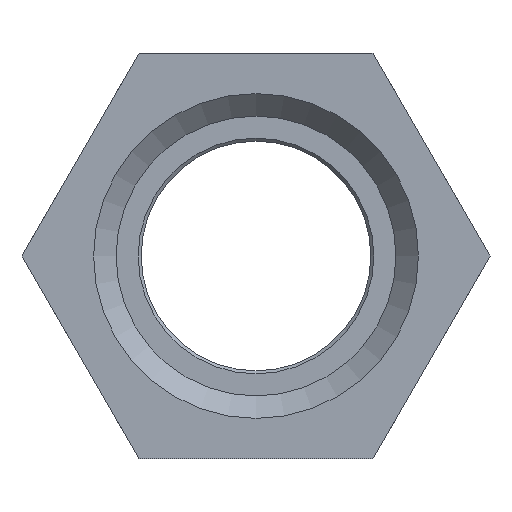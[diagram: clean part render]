
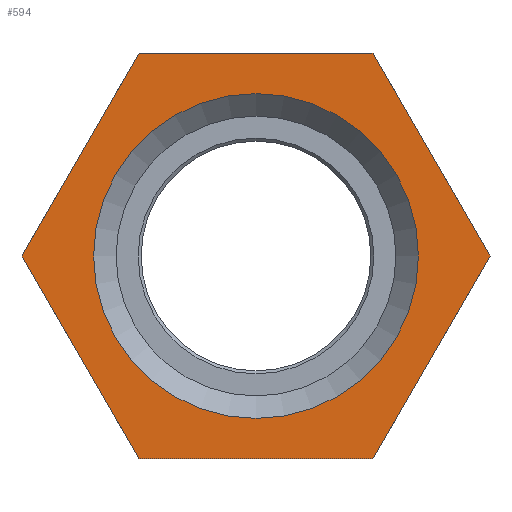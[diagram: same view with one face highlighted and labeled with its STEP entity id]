
A CAD part, front view. The second image highlights one B-rep face of the part: STEP entity #594.
In plain terms, the highlighted planar face has unit normal (0, -1, 0).
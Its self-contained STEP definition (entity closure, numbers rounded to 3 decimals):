
#30=FACE_BOUND('',#177,.T.);
#35=PLANE('',#687);
#64=LINE('',#1022,#95);
#65=LINE('',#1024,#96);
#66=LINE('',#1026,#97);
#67=LINE('',#1028,#98);
#68=LINE('',#1030,#99);
#69=LINE('',#1031,#100);
#95=VECTOR('',#840,10.);
#96=VECTOR('',#841,10.);
#97=VECTOR('',#842,10.);
#98=VECTOR('',#843,10.);
#99=VECTOR('',#844,10.);
#100=VECTOR('',#845,10.);
#139=FACE_OUTER_BOUND('',#176,.T.);
#176=EDGE_LOOP('',(#480,#481,#482,#483,#484,#485));
#177=EDGE_LOOP('',(#486));
#235=CIRCLE('',#686,10.82);
#284=VERTEX_POINT('',#1016);
#285=VERTEX_POINT('',#1020);
#286=VERTEX_POINT('',#1021);
#287=VERTEX_POINT('',#1023);
#288=VERTEX_POINT('',#1025);
#289=VERTEX_POINT('',#1027);
#290=VERTEX_POINT('',#1029);
#357=EDGE_CURVE('',#284,#284,#235,.T.);
#358=EDGE_CURVE('',#285,#286,#64,.T.);
#359=EDGE_CURVE('',#286,#287,#65,.T.);
#360=EDGE_CURVE('',#287,#288,#66,.T.);
#361=EDGE_CURVE('',#288,#289,#67,.T.);
#362=EDGE_CURVE('',#289,#290,#68,.T.);
#363=EDGE_CURVE('',#290,#285,#69,.T.);
#480=ORIENTED_EDGE('',*,*,#358,.T.);
#481=ORIENTED_EDGE('',*,*,#359,.T.);
#482=ORIENTED_EDGE('',*,*,#360,.T.);
#483=ORIENTED_EDGE('',*,*,#361,.T.);
#484=ORIENTED_EDGE('',*,*,#362,.T.);
#485=ORIENTED_EDGE('',*,*,#363,.T.);
#486=ORIENTED_EDGE('',*,*,#357,.F.);
#594=ADVANCED_FACE('',(#139,#30),#35,.T.);
#686=AXIS2_PLACEMENT_3D('',#1018,#836,#837);
#687=AXIS2_PLACEMENT_3D('',#1019,#838,#839);
#836=DIRECTION('center_axis',(0.,-1.,0.));
#837=DIRECTION('ref_axis',(0.,0.,1.));
#838=DIRECTION('center_axis',(0.,-1.,0.));
#839=DIRECTION('ref_axis',(0.,0.,-1.));
#840=DIRECTION('',(-0.5,0.,0.866));
#841=DIRECTION('',(-1.,0.,0.));
#842=DIRECTION('',(-0.5,0.,-0.866));
#843=DIRECTION('',(0.5,0.,-0.866));
#844=DIRECTION('',(1.,0.,0.));
#845=DIRECTION('',(0.5,0.,0.866));
#1016=CARTESIAN_POINT('',(0.,-40.,-10.82));
#1018=CARTESIAN_POINT('Origin',(0.,-40.,0.));
#1019=CARTESIAN_POINT('Origin',(0.,-40.,-9.32));
#1020=CARTESIAN_POINT('',(15.588,-40.,0.));
#1021=CARTESIAN_POINT('',(7.794,-40.,13.5));
#1022=CARTESIAN_POINT('',(15.658,-40.,-0.12));
#1023=CARTESIAN_POINT('',(-7.794,-40.,13.5));
#1024=CARTESIAN_POINT('',(3.897,-40.,13.5));
#1025=CARTESIAN_POINT('',(-15.588,-40.,0.));
#1026=CARTESIAN_POINT('',(-11.761,-40.,6.63));
#1027=CARTESIAN_POINT('',(-7.794,-40.,-13.5));
#1028=CARTESIAN_POINT('',(-11.622,-40.,-6.87));
#1029=CARTESIAN_POINT('',(7.794,-40.,-13.5));
#1030=CARTESIAN_POINT('',(-3.897,-40.,-13.5));
#1031=CARTESIAN_POINT('',(7.725,-40.,-13.62));
